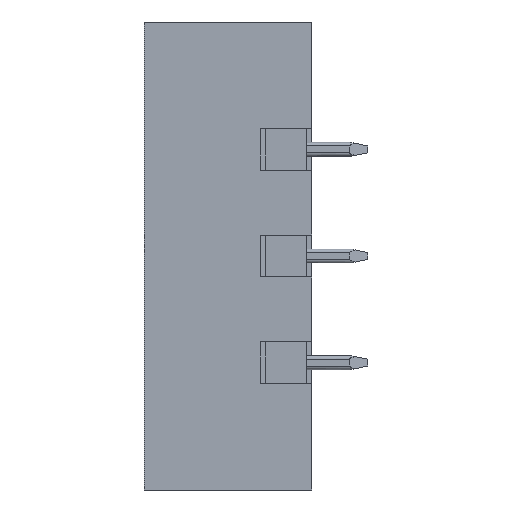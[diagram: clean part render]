
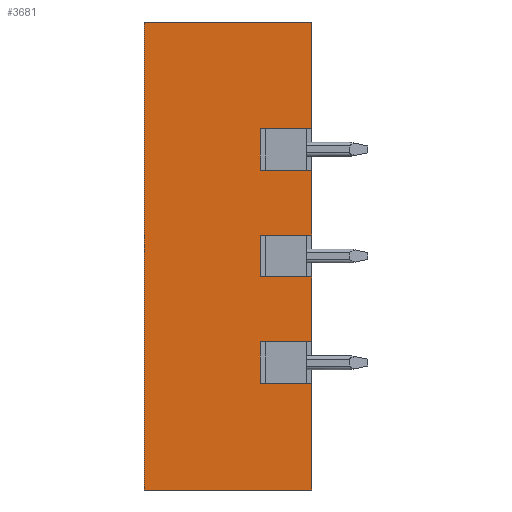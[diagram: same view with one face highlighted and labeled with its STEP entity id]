
A CAD part, left-side view. The second image highlights one B-rep face of the part: STEP entity #3681.
In plain terms, the highlighted planar face has unit normal (-1, 0, 0).
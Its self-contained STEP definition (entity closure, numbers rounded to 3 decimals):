
#69=DIRECTION('',(0.,0.,1.));
#70=VECTOR('',#69,7.6);
#71=CARTESIAN_POINT('',(0.,0.,-16.45));
#72=LINE('',#71,#70);
#85=DIRECTION('',(0.,0.,1.));
#86=VECTOR('',#85,4.62);
#87=CARTESIAN_POINT('',(0.,0.,-5.85));
#88=LINE('',#87,#86);
#101=DIRECTION('',(0.,0.,1.));
#102=VECTOR('',#101,4.62);
#103=CARTESIAN_POINT('',(0.,0.,1.77));
#104=LINE('',#103,#102);
#117=DIRECTION('',(0.,0.,1.));
#118=VECTOR('',#117,7.6);
#119=CARTESIAN_POINT('',(0.,0.,9.39));
#120=LINE('',#119,#118);
#277=DIRECTION('',(0.,1.,0.));
#278=VECTOR('',#277,12.);
#279=CARTESIAN_POINT('',(0.,0.,16.99));
#280=LINE('',#279,#278);
#281=DIRECTION('',(0.,1.,0.));
#282=VECTOR('',#281,3.7);
#283=CARTESIAN_POINT('',(0.,0.,9.39));
#284=LINE('',#283,#282);
#285=DIRECTION('',(0.,0.,-1.));
#286=VECTOR('',#285,3.);
#287=CARTESIAN_POINT('',(0.,3.7,9.39));
#288=LINE('',#287,#286);
#289=DIRECTION('',(0.,-1.,0.));
#290=VECTOR('',#289,3.7);
#291=CARTESIAN_POINT('',(0.,3.7,6.39));
#292=LINE('',#291,#290);
#293=DIRECTION('',(0.,1.,0.));
#294=VECTOR('',#293,3.7);
#295=CARTESIAN_POINT('',(0.,0.,1.77));
#296=LINE('',#295,#294);
#297=DIRECTION('',(0.,0.,-1.));
#298=VECTOR('',#297,3.);
#299=CARTESIAN_POINT('',(0.,3.7,1.77));
#300=LINE('',#299,#298);
#301=DIRECTION('',(0.,-1.,0.));
#302=VECTOR('',#301,3.7);
#303=CARTESIAN_POINT('',(0.,3.7,-1.23));
#304=LINE('',#303,#302);
#305=DIRECTION('',(0.,1.,0.));
#306=VECTOR('',#305,3.7);
#307=CARTESIAN_POINT('',(0.,0.,-5.85));
#308=LINE('',#307,#306);
#309=DIRECTION('',(0.,0.,-1.));
#310=VECTOR('',#309,3.);
#311=CARTESIAN_POINT('',(0.,3.7,-5.85));
#312=LINE('',#311,#310);
#313=DIRECTION('',(0.,-1.,0.));
#314=VECTOR('',#313,3.7);
#315=CARTESIAN_POINT('',(0.,3.7,-8.85));
#316=LINE('',#315,#314);
#321=DIRECTION('',(0.,-1.,0.));
#322=VECTOR('',#321,12.);
#323=CARTESIAN_POINT('',(0.,12.,-16.45));
#324=LINE('',#323,#322);
#494=DIRECTION('',(0.,0.,-1.));
#495=VECTOR('',#494,33.44);
#496=CARTESIAN_POINT('',(0.,12.,16.99));
#497=LINE('',#496,#495);
#2750=CARTESIAN_POINT('',(0.,12.,16.99));
#2751=VERTEX_POINT('',#2750);
#2752=CARTESIAN_POINT('',(0.,12.,-16.45));
#2753=VERTEX_POINT('',#2752);
#2846=CARTESIAN_POINT('',(0.,3.7,9.39));
#2847=VERTEX_POINT('',#2846);
#2848=CARTESIAN_POINT('',(0.,0.,9.39));
#2849=VERTEX_POINT('',#2848);
#2852=CARTESIAN_POINT('',(0.,3.7,6.39));
#2853=VERTEX_POINT('',#2852);
#2854=CARTESIAN_POINT('',(0.,0.,6.39));
#2855=VERTEX_POINT('',#2854);
#2858=CARTESIAN_POINT('',(0.,0.,-16.45));
#2859=CARTESIAN_POINT('',(0.,0.,-8.85));
#2860=VERTEX_POINT('',#2858);
#2861=VERTEX_POINT('',#2859);
#2862=CARTESIAN_POINT('',(0.,0.,16.99));
#2863=VERTEX_POINT('',#2862);
#2864=CARTESIAN_POINT('',(0.,0.,1.77));
#2865=VERTEX_POINT('',#2864);
#2866=CARTESIAN_POINT('',(0.,3.7,1.77));
#2867=VERTEX_POINT('',#2866);
#2868=CARTESIAN_POINT('',(0.,3.7,-1.23));
#2869=VERTEX_POINT('',#2868);
#2870=CARTESIAN_POINT('',(0.,0.,-1.23));
#2871=VERTEX_POINT('',#2870);
#2872=CARTESIAN_POINT('',(0.,0.,-5.85));
#2873=VERTEX_POINT('',#2872);
#2874=CARTESIAN_POINT('',(0.,3.7,-5.85));
#2875=VERTEX_POINT('',#2874);
#2876=CARTESIAN_POINT('',(0.,3.7,-8.85));
#2877=VERTEX_POINT('',#2876);
#3647=CARTESIAN_POINT('',(0.,6.,0.27));
#3648=DIRECTION('',(1.,0.,0.));
#3649=DIRECTION('',(0.,-1.,0.));
#3650=AXIS2_PLACEMENT_3D('',#3647,#3648,#3649);
#3651=PLANE('',#3650);
#3652=ORIENTED_EDGE('',*,*,#3485,.F.);
#3654=ORIENTED_EDGE('',*,*,#3653,.F.);
#3656=ORIENTED_EDGE('',*,*,#3655,.F.);
#3657=ORIENTED_EDGE('',*,*,#3640,.F.);
#3658=ORIENTED_EDGE('',*,*,#3509,.F.);
#3660=ORIENTED_EDGE('',*,*,#3659,.T.);
#3662=ORIENTED_EDGE('',*,*,#3661,.T.);
#3664=ORIENTED_EDGE('',*,*,#3663,.T.);
#3665=ORIENTED_EDGE('',*,*,#3501,.F.);
#3667=ORIENTED_EDGE('',*,*,#3666,.T.);
#3669=ORIENTED_EDGE('',*,*,#3668,.T.);
#3671=ORIENTED_EDGE('',*,*,#3670,.T.);
#3672=ORIENTED_EDGE('',*,*,#3493,.F.);
#3674=ORIENTED_EDGE('',*,*,#3673,.T.);
#3676=ORIENTED_EDGE('',*,*,#3675,.T.);
#3678=ORIENTED_EDGE('',*,*,#3677,.T.);
#3679=EDGE_LOOP('',(#3652,#3654,#3656,#3657,#3658,#3660,#3662,#3664,#3665,#3667,
#3669,#3671,#3672,#3674,#3676,#3678));
#3680=FACE_OUTER_BOUND('',#3679,.F.);
#3681=ADVANCED_FACE('',(#3680),#3651,.F.);
#3485=EDGE_CURVE('',#2860,#2861,#72,.T.);
#3493=EDGE_CURVE('',#2873,#2871,#88,.T.);
#3501=EDGE_CURVE('',#2865,#2855,#104,.T.);
#3509=EDGE_CURVE('',#2849,#2863,#120,.T.);
#3640=EDGE_CURVE('',#2863,#2751,#280,.T.);
#3653=EDGE_CURVE('',#2753,#2860,#324,.T.);
#3655=EDGE_CURVE('',#2751,#2753,#497,.T.);
#3659=EDGE_CURVE('',#2849,#2847,#284,.T.);
#3661=EDGE_CURVE('',#2847,#2853,#288,.T.);
#3663=EDGE_CURVE('',#2853,#2855,#292,.T.);
#3666=EDGE_CURVE('',#2865,#2867,#296,.T.);
#3668=EDGE_CURVE('',#2867,#2869,#300,.T.);
#3670=EDGE_CURVE('',#2869,#2871,#304,.T.);
#3673=EDGE_CURVE('',#2873,#2875,#308,.T.);
#3675=EDGE_CURVE('',#2875,#2877,#312,.T.);
#3677=EDGE_CURVE('',#2877,#2861,#316,.T.);
